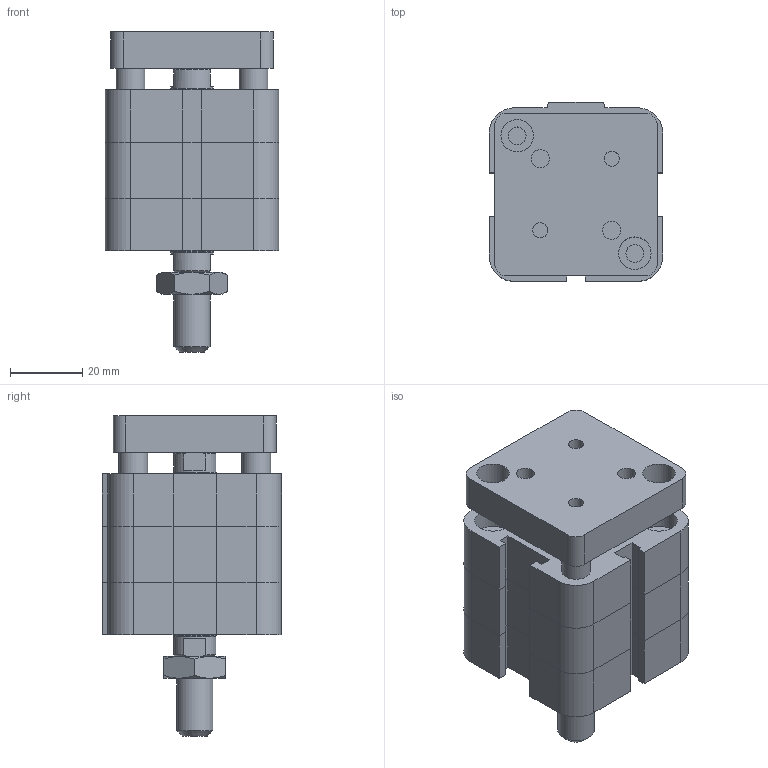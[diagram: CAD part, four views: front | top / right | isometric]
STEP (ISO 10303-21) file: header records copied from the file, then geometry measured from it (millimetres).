
FILE_DESCRIPTION((''),'2;1');
FILE_NAME('I:\Area Tecnica\Disegni\VARIE-3D\Componenti\EUROPE\15##_###_####_09_#\1561_32_0000_09_1.iam.stp','2009-04-20T15:35:40',(''),(''),'Autodesk Inventor 2009','Autodesk Inventor 2009','');
FILE_SCHEMA(('AUTOMOTIVE_DESIGN { 1 0 10303 214 1 1 1 1 }'));
Length unit declared in the file: millimetre
Products named in the file (4): 1561_32_0000_09_1; 1561_32_0000_08_1_C; 1561_32_0000_09_1_SA; DBFM10
Assembly tree (3 placements, depth 2):
  1561_32_0000_09_1
    1561_32_0000_08_1_C
    1561_32_0000_09_1_SA
    DBFM10
Bounding box: 48 x 49.5 x 88.5 mm (x, y, z)
Volume: 111220.4 mm3; surface area: 30735.9 mm2
Topology: 3 solids, 3 shells, 209 faces, 470 edges, 287 vertices
Faces by surface type: plane 120, bspline 45, cylinder 23, cone 21
Full cylindrical faces by diameter (mm): 8 x2, 8.8 x1, 10 x1, 11.7 x2, 12 x1
Entity records: 5963 total; most frequent: CARTESIAN_POINT 1453, DIRECTION 838, ORIENTED_EDGE 834, EDGE_CURVE 417, AXIS2_PLACEMENT_3D 282, EDGE_LOOP 282, VECTOR 274, LINE 274
